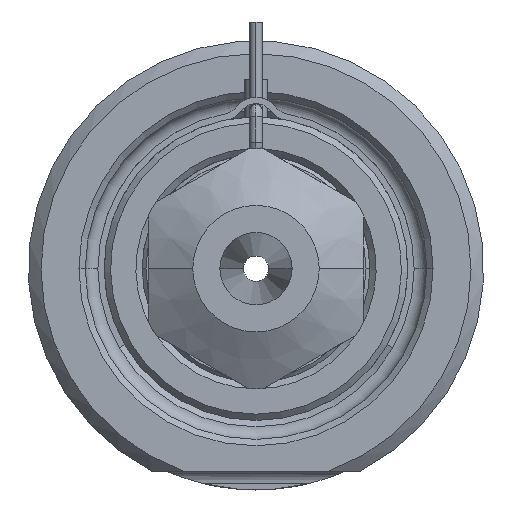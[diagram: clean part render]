
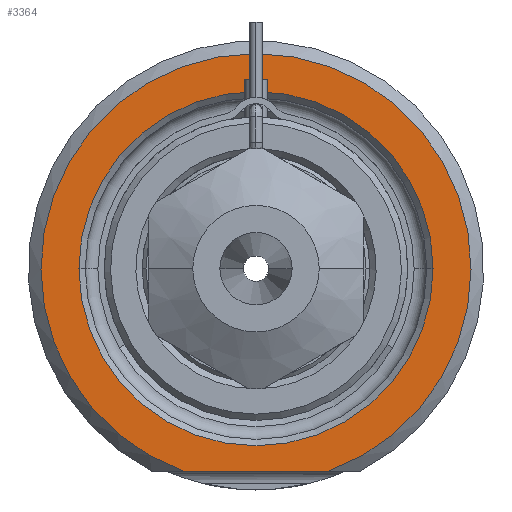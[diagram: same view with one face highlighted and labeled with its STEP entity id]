
A CAD part, front view. The second image highlights one B-rep face of the part: STEP entity #3364.
In plain terms, the highlighted planar face has unit normal (0, -1, 0).
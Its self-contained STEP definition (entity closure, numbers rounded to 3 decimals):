
#682=DIRECTION('',(1.,0.,0.));
#683=VECTOR('',#682,11.489);
#684=CARTESIAN_POINT('',(-5.745,0.,-16.));
#685=LINE('',#684,#683);
#686=CARTESIAN_POINT('',(0.,0.,0.));
#687=DIRECTION('',(0.,1.,0.));
#688=DIRECTION('',(-1.,0.,0.));
#689=AXIS2_PLACEMENT_3D('',#686,#687,#688);
#691=CARTESIAN_POINT('',(0.,0.,0.));
#692=DIRECTION('',(0.,1.,0.));
#693=DIRECTION('',(1.,0.,0.));
#694=AXIS2_PLACEMENT_3D('',#691,#692,#693);
#798=CARTESIAN_POINT('',(0.,0.,0.));
#799=DIRECTION('',(0.,-1.,0.));
#800=DIRECTION('',(0.338,0.,-0.941));
#801=AXIS2_PLACEMENT_3D('',#798,#799,#800);
#2156=CARTESIAN_POINT('',(-14.,0.,0.));
#2157=CARTESIAN_POINT('',(14.,0.,0.));
#2158=VERTEX_POINT('',#2156);
#2159=VERTEX_POINT('',#2157);
#2206=CARTESIAN_POINT('',(-5.745,0.,-16.));
#2207=CARTESIAN_POINT('',(5.745,0.,-16.));
#2208=VERTEX_POINT('',#2206);
#2209=VERTEX_POINT('',#2207);
#3348=CARTESIAN_POINT('',(0.,0.,0.));
#3349=DIRECTION('',(0.,-1.,0.));
#3350=DIRECTION('',(1.,0.,0.));
#3351=AXIS2_PLACEMENT_3D('',#3348,#3349,#3350);
#3352=PLANE('',#3351);
#3354=ORIENTED_EDGE('',*,*,#3353,.F.);
#3356=ORIENTED_EDGE('',*,*,#3355,.F.);
#3357=EDGE_LOOP('',(#3354,#3356));
#3358=FACE_OUTER_BOUND('',#3357,.F.);
#3360=ORIENTED_EDGE('',*,*,#3359,.F.);
#3361=ORIENTED_EDGE('',*,*,#3338,.F.);
#3362=EDGE_LOOP('',(#3360,#3361));
#3363=FACE_BOUND('',#3362,.F.);
#3364=ADVANCED_FACE('',(#3358,#3363),#3352,.T.);
#690=CIRCLE('',#689,14.);
#695=CIRCLE('',#694,14.);
#802=CIRCLE('',#801,17.);
#3338=EDGE_CURVE('',#2159,#2158,#695,.T.);
#3353=EDGE_CURVE('',#2208,#2209,#685,.T.);
#3355=EDGE_CURVE('',#2209,#2208,#802,.T.);
#3359=EDGE_CURVE('',#2158,#2159,#690,.T.);
